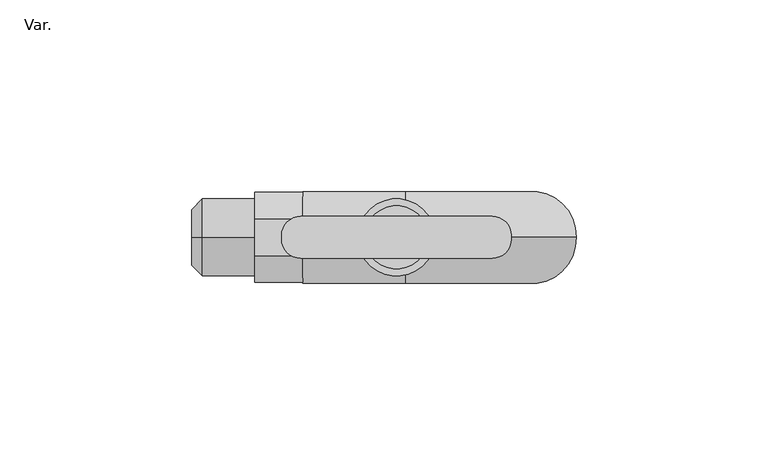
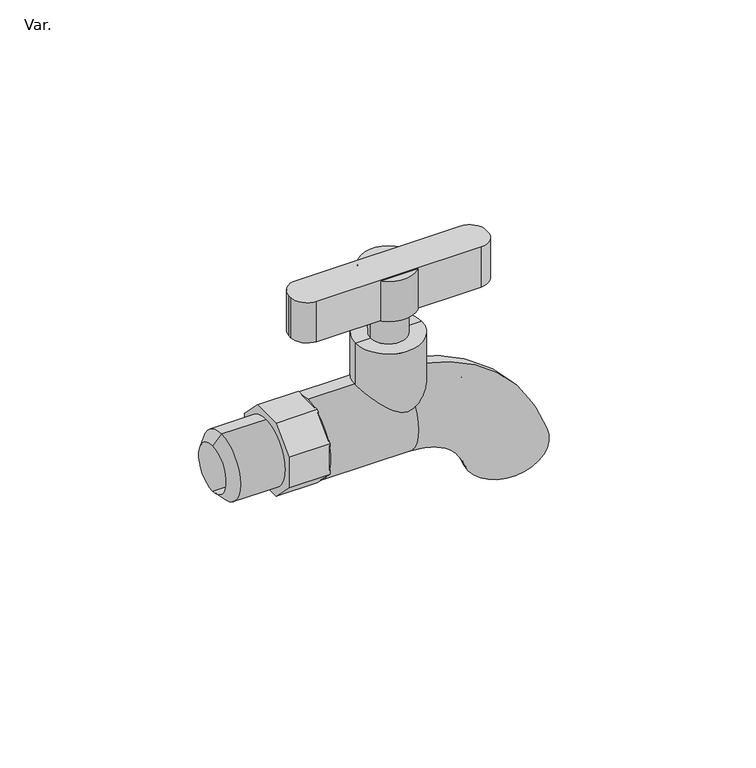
"""IFC4 building model written with IfcOpenShell, lengths in millimetres: pipe fitting geometry, AmancoWavin_Unionesdetubería_AguaPotableLlavedeChorroBRPesada : Var.."""

from ifc_helpers import new_model, si_unit, point, frame, frame_2d, origin, place, context, project, spatial, polyline, circle_curve, ellipse_curve, trimmed, segment, composite_curve, outline, extrude, source, transform, mapped, element, save
from ifc_brep_helpers import plane_surface, cylinder_surface, revolved_surface, advanced_brep


def var_e75e8eaf(model_context):
    return source(origin(), model_context, "Body", "SolidModel", [
        extrude(outline(composite_curve([segment(trimmed(circle_curve(frame_2d((28.4873048, -0.485)), 5.0), [point((28.4873048, -5.485))], [point((23.4873048, -0.485))], False, "CARTESIAN"), True, "CONTINUOUS"), segment(polyline([(23.4873048, -0.485), (23.4873048, 0.485)]), True, "CONTINUOUS"), segment(trimmed(circle_curve(frame_2d((28.4873048, 0.485)), 5.0), [point((23.4873048, 0.485))], [point((28.4873048, 5.485))], False, "CARTESIAN"), True, "CONTINUOUS"), segment(polyline([(28.4873048, 5.485), (78.4373048, 5.485)]), True, "CONTINUOUS"), segment(trimmed(circle_curve(frame_2d((78.4373048, 0.485)), 5.0), [point((78.4373048, 5.485))], [point((83.4373048, 0.485))], False, "CARTESIAN"), True, "CONTINUOUS"), segment(polyline([(83.4373048, 0.485), (83.4373048, -0.485)]), True, "CONTINUOUS"), segment(trimmed(circle_curve(frame_2d((78.4373048, -0.485)), 5.0), [point((83.4373048, -0.485))], [point((78.4373048, -5.485))], False, "CARTESIAN"), True, "CONTINUOUS"), segment(polyline([(78.4373048, -5.485), (28.4873048, -5.485)]), True, "CONTINUOUS")], self_intersect=False)), frame((0.0, 0.0, 34.09), z_axis=(0.0, 0.0, 1.0), x_axis=(1.0, 0.0, 0.0)), (0.0, 0.0, 1.0), 12.91),
        advanced_brep(
        [(63.5423048, 0.0, 25.0), (43.3823048, 0.0, 25.0), (43.3823048, 0.0, 0.0), (63.5423048, 0.0, 0.0), (58.9473048, 0.0, 25.0), (47.9773048, 0.0, 25.0), (58.9473048, 0.0, 34.09), (47.9773048, 0.0, 34.09), (61.6898048, 0.0, 34.09), (45.2348048, 0.0, 34.09), (61.6898048, 0.0, 47.0), (45.2348048, 0.0, 47.0), (53.4623048, 0.0, 47.0), (53.4623048, 0.0, 0.0)],
        [
            (0, 1, circle_curve(frame((53.4623048, 0.0, 25.0), z_axis=(0.0, 0.0, -1.0), x_axis=(-1.0, 0.0, 0.0)), 10.08)),
            (1, 2),
            (2, 3, circle_curve(frame((53.4623048, 0.0, 0.0), z_axis=(0.0, 0.0, 1.0), x_axis=(-1.0, 0.0, 0.0)), 10.08)),
            (3, 0),
            (1, 0, circle_curve(frame((53.4623048, 0.0, 25.0), z_axis=(0.0, 0.0, -1.0), x_axis=(-1.0, 0.0, 0.0)), 10.08)),
            (3, 2, circle_curve(frame((53.4623048, 0.0, 0.0), z_axis=(0.0, 0.0, 1.0), x_axis=(-1.0, 0.0, 0.0)), 10.08)),
            (4, 5, circle_curve(frame((53.4623048, 0.0, 25.0), z_axis=(0.0, 0.0, -1.0), x_axis=(-1.0, 0.0, 0.0)), 5.485)),
            (5, 1),
            (0, 4),
            (5, 4, circle_curve(frame((53.4623048, 0.0, 25.0), z_axis=(0.0, 0.0, -1.0), x_axis=(-1.0, 0.0, 0.0)), 5.485)),
            (6, 7, circle_curve(frame((53.4623048, 0.0, 34.09), z_axis=(0.0, 0.0, -1.0), x_axis=(-1.0, 0.0, 0.0)), 5.485)),
            (7, 5),
            (4, 6),
            (7, 6, circle_curve(frame((53.4623048, 0.0, 34.09), z_axis=(0.0, 0.0, -1.0), x_axis=(-1.0, 0.0, 0.0)), 5.485)),
            (8, 9, circle_curve(frame((53.4623048, 0.0, 34.09), z_axis=(0.0, 0.0, -1.0), x_axis=(-1.0, 0.0, 0.0)), 8.2275)),
            (9, 7),
            (6, 8),
            (9, 8, circle_curve(frame((53.4623048, 0.0, 34.09), z_axis=(0.0, 0.0, -1.0), x_axis=(-1.0, 0.0, 0.0)), 8.2275)),
            (10, 11, circle_curve(frame((53.4623048, 0.0, 47.0), z_axis=(0.0, 0.0, -1.0), x_axis=(-1.0, 0.0, 0.0)), 8.2275)),
            (11, 9),
            (8, 10),
            (11, 10, circle_curve(frame((53.4623048, 0.0, 47.0), z_axis=(0.0, 0.0, -1.0), x_axis=(-1.0, 0.0, 0.0)), 8.2275)),
            (12, 11),
            (10, 12),
            (2, 13),
            (13, 3),
        ],
        [
            cylinder_surface(frame((53.4623048, 0.0, 24.1815381), z_axis=(0.0, 0.0, 1.0), x_axis=(-1.0, 0.0, 0.0)), 10.08),
            plane_surface(frame((53.4623048, 0.0, 25.0), z_axis=(0.0, 0.0, 1.0), x_axis=(-1.0, 0.0, 0.0))),
            cylinder_surface(frame((53.4623048, 0.0, 24.1815381), z_axis=(0.0, 0.0, 1.0), x_axis=(-1.0, 0.0, 0.0)), 5.485),
            plane_surface(frame((53.4623048, 0.0, 34.09), z_axis=(0.0, 0.0, -1.0), x_axis=(-1.0, 0.0, 0.0))),
            cylinder_surface(frame((53.4623048, 0.0, 24.1815381), z_axis=(0.0, 0.0, 1.0), x_axis=(-1.0, 0.0, 0.0)), 8.2275),
            plane_surface(frame((53.4623048, 0.0, 47.0), z_axis=(0.0, 0.0, 1.0), x_axis=(-1.0, 0.0, 0.0))),
            plane_surface(frame((53.4623048, 0.0, 0.0), z_axis=(0.0, 0.0, -1.0), x_axis=(-1.0, 0.0, 0.0))),
        ],
        [
            (0, [[1, 2, 3, 4]]),
            (0, [[5, -4, 6, -2]]),
            (1, [[7, 8, -1, 9]]),
            (1, [[10, -9, -5, -8]]),
            (2, [[11, 12, -7, 13]]),
            (2, [[14, -13, -10, -12]]),
            (3, [[15, 16, -11, 17]]),
            (3, [[18, -17, -14, -16]]),
            (4, [[19, 20, -15, 21]]),
            (4, [[22, -21, -18, -20]]),
            (5, [[23, -19, 24]]),
            (5, [[-24, -22, -23]]),
            (6, [[-3, 25, 26]]),
            (6, [[-6, -26, -25]]),
        ],
    ),
        advanced_brep(
        [(28.95, 0.0, -12.0), (28.95, 0.0, 12.0), (28.95, 0.0, -7.075), (28.95, 0.0, 7.075), (55.702792, 0.0, -12.0), (55.702792, 0.0, 12.0), (55.702792, 0.0, -7.075), (55.702792, 0.0, 7.075), (77.5871001, 0.0, -27.9234854), (100.4228999, 0.0, -20.5392962), (82.2731965, 0.0, -26.4081882), (95.7368035, 0.0, -22.0545934)],
        [
            (0, 1, circle_curve(frame((28.95, 0.0, 0.0), z_axis=(-1.0, 0.0, 0.0), x_axis=(0.0, 0.0, 1.0)), 12.0)),
            (1, 0, circle_curve(frame((28.95, 0.0, 0.0), z_axis=(-1.0, 0.0, 0.0), x_axis=(0.0, 0.0, 1.0)), 12.0)),
            (2, 3, circle_curve(frame((28.95, 0.0, 0.0), z_axis=(1.0, 0.0, 0.0), x_axis=(0.0, 0.0, 1.0)), 7.075)),
            (3, 2, circle_curve(frame((28.95, 0.0, 0.0), z_axis=(1.0, 0.0, 0.0), x_axis=(0.0, 0.0, 1.0)), 7.075)),
            (0, 4),
            (4, 5, circle_curve(frame((55.702792, 0.0, 0.0), z_axis=(-1.0, 0.0, 0.0), x_axis=(0.0, 0.0, 1.0)), 12.0)),
            (5, 1),
            (5, 4, circle_curve(frame((55.702792, 0.0, 0.0), z_axis=(-1.0, 0.0, 0.0), x_axis=(0.0, 0.0, 1.0)), 12.0)),
            (2, 6),
            (6, 7, circle_curve(frame((55.702792, 0.0, 0.0), z_axis=(1.0, 0.0, 0.0), x_axis=(0.0, 0.0, 1.0)), 7.075)),
            (7, 3),
            (7, 6, circle_curve(frame((55.702792, 0.0, 0.0), z_axis=(1.0, 0.0, 0.0), x_axis=(0.0, 0.0, 1.0)), 7.075)),
            (8, 9, circle_curve(frame((89.005, 0.0, -24.2313908), z_axis=(0.3076745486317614, 0.0, -0.9514916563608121), x_axis=(0.9514916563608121, 0.0, 0.3076745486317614)), 12.0)),
            (9, 8, circle_curve(frame((89.005, 0.0, -24.2313908), z_axis=(0.3076745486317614, 0.0, -0.9514916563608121), x_axis=(0.9514916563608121, 0.0, 0.3076745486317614)), 12.0)),
            (10, 11, circle_curve(frame((89.005, 0.0, -24.2313908), z_axis=(-0.3076745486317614, 0.0, 0.9514916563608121), x_axis=(0.9514916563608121, 0.0, 0.3076745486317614)), 7.075)),
            (11, 10, circle_curve(frame((89.005, 0.0, -24.2313908), z_axis=(-0.3076745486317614, 0.0, 0.9514916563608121), x_axis=(0.9514916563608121, 0.0, 0.3076745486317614)), 7.075)),
            (9, 5, circle_curve(frame((55.702792, 0.0, -35.0), z_axis=(0.0, -1.0, 0.0), x_axis=(0.0, 0.0, 1.0)), 47.0)),
            (4, 8, circle_curve(frame((55.702792, 0.0, -35.0), z_axis=(0.0, 1.0, 0.0), x_axis=(0.0, 0.0, 1.0)), 23.0)),
            (11, 7, circle_curve(frame((55.702792, 0.0, -35.0), z_axis=(0.0, -1.0, 0.0), x_axis=(0.0, 0.0, 1.0)), 42.075)),
            (6, 10, circle_curve(frame((55.702792, 0.0, -35.0), z_axis=(0.0, 1.0, 0.0), x_axis=(0.0, 0.0, 1.0)), 27.925)),
        ],
        [
            plane_surface(frame((28.95, 0.0, 0.0), z_axis=(-1.0, 0.0, 0.0), x_axis=(0.0, -1.0, 0.0))),
            cylinder_surface(frame((28.95, 0.0, 0.0), z_axis=(-1.0, 0.0, 0.0), x_axis=(0.0, 0.0, 1.0)), 12.0),
            revolved_surface(polyline([(55.702792, 0.0, 7.075), (28.95, 0.0, 7.075)]), (28.95, 0.0, 0.0), (1.0, 0.0, 0.0)),
            plane_surface(frame((89.005, 0.0, -24.2313908), z_axis=(0.30767454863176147, 0.0, -0.9514916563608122), x_axis=(0.0, -1.0, 0.0))),
            revolved_surface(trimmed(ellipse_curve(frame((55.702792, 0.0, 0.0), z_axis=(-1.0, 0.0, 0.0), x_axis=(0.0, 0.0, 1.0)), 12.0, 12.0), [point((55.702792, 0.0, -12.0))], [point((55.702792, 0.0, 12.0))], True, "CARTESIAN"), (55.702792, 0.0, -35.0), (0.0, 1.0, 0.0)),
            revolved_surface(trimmed(ellipse_curve(frame((55.702792, 0.0, 0.0), z_axis=(-1.0, 0.0, 0.0), x_axis=(0.0, 0.0, 1.0)), 12.0, 12.0), [point((55.702792, 0.0, 12.0))], [point((55.702792, 0.0, -12.0))], True, "CARTESIAN"), (55.702792, 0.0, -35.0), (0.0, 1.0, 0.0)),
            revolved_surface(trimmed(ellipse_curve(frame((55.702792, 0.0, 0.0), z_axis=(1.0, 0.0, 0.0), x_axis=(0.0, 0.0, 1.0)), 7.075, 7.075), [point((55.702792, 0.0, -7.075))], [point((55.702792, 0.0, 7.075))], True, "CARTESIAN"), (55.702792, 0.0, -35.0), (0.0, 1.0, 0.0)),
            revolved_surface(trimmed(ellipse_curve(frame((55.702792, 0.0, 0.0), z_axis=(1.0, 0.0, 0.0), x_axis=(0.0, 0.0, 1.0)), 7.075, 7.075), [point((55.702792, 0.0, 7.075))], [point((55.702792, 0.0, -7.075))], True, "CARTESIAN"), (55.702792, 0.0, -35.0), (0.0, 1.0, 0.0)),
        ],
        [
            (0, [[1, 2], [3, 4]]),
            (1, [[-1, 5, 6, 7]]),
            (1, [[-2, -7, 8, -5]]),
            (2, [[-3, 9, 10, 11]]),
            (2, [[-4, -11, 12, -9]]),
            (3, [[13, 14], [15, 16]]),
            (4, [[17, -6, 18, -14]]),
            (5, [[-18, -8, -17, -13]]),
            (6, [[19, -10, 20, -16]]),
            (7, [[-20, -12, -19, -15]]),
        ],
    ),
        extrude(outline(polyline([(-11.735, 4.8607962), (-4.8607962, 11.735), (4.8607962, 11.735), (11.735, 4.8607962), (11.735, -4.8607962), (4.8607962, -11.735), (-4.8607962, -11.735), (-11.735, -4.8607962), (-11.735, 4.8607962)])), frame((16.46, 0.0, 0.0), z_axis=(1.0, 0.0, 0.0), x_axis=(0.0, 1.0, 0.0)), (0.0, 0.0, 1.0), 12.49),
        advanced_brep(
        [(2.8, 0.0, -10.08), (2.8, 0.0, 10.08), (16.46, 0.0, 10.08), (16.46, 0.0, -10.08), (0.0, 0.0, -7.28), (0.0, 0.0, 7.28), (16.46, 0.0, -7.28), (16.46, 0.0, 7.28)],
        [
            (0, 1, circle_curve(frame((2.8, 0.0, 0.0), z_axis=(1.0, 0.0, 0.0), x_axis=(0.0, 0.0, 1.0)), 10.08)),
            (1, 2),
            (2, 3, circle_curve(frame((16.46, 0.0, 0.0), z_axis=(-1.0, 0.0, 0.0), x_axis=(0.0, 0.0, 1.0)), 10.08)),
            (3, 0),
            (1, 0, circle_curve(frame((2.8, 0.0, 0.0), z_axis=(1.0, 0.0, 0.0), x_axis=(0.0, 0.0, 1.0)), 10.08)),
            (3, 2, circle_curve(frame((16.46, 0.0, 0.0), z_axis=(-1.0, 0.0, 0.0), x_axis=(0.0, 0.0, 1.0)), 10.08)),
            (4, 5, circle_curve(frame((0.0, 0.0, 0.0), z_axis=(1.0, 0.0, 0.0), x_axis=(0.0, 0.0, 1.0)), 7.28)),
            (5, 1),
            (0, 4),
            (5, 4, circle_curve(frame((0.0, 0.0, 0.0), z_axis=(1.0, 0.0, 0.0), x_axis=(0.0, 0.0, 1.0)), 7.28)),
            (6, 7, circle_curve(frame((16.46, 0.0, 0.0), z_axis=(1.0, 0.0, 0.0), x_axis=(0.0, 0.0, 1.0)), 7.28)),
            (7, 5),
            (4, 6),
            (7, 6, circle_curve(frame((16.46, 0.0, 0.0), z_axis=(1.0, 0.0, 0.0), x_axis=(0.0, 0.0, 1.0)), 7.28)),
            (2, 7),
            (6, 3),
        ],
        [
            cylinder_surface(frame((-1346.7719047, 0.0, 0.0), z_axis=(-1.0, 0.0, 0.0), x_axis=(0.0, 0.0, 1.0)), 10.08),
            revolved_surface(polyline([(2.8, 0.0, 10.08), (0.0, 0.0, 7.28)]), (-1346.7719047, 0.0, 0.0), (-1.0, 0.0, 0.0)),
            revolved_surface(polyline([(0.0, 0.0, 7.28), (16.460000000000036, 0.0, 7.28)]), (-1346.7719047, 0.0, 0.0), (-1.0, 0.0, 0.0)),
            plane_surface(frame((16.46, 0.0, 0.0), z_axis=(1.0, 0.0, 0.0), x_axis=(0.0, 0.0, 1.0))),
        ],
        [
            (0, [[1, 2, 3, 4]]),
            (0, [[5, -4, 6, -2]]),
            (1, [[7, 8, -1, 9]]),
            (1, [[10, -9, -5, -8]]),
            (2, [[11, 12, -7, 13]]),
            (2, [[14, -13, -10, -12]]),
            (3, [[-3, 15, -11, 16]]),
            (3, [[-6, -16, -14, -15]]),
        ],
    ),
    ])


if __name__ == "__main__":
    model = new_model("IFC4")
    model_context = context("Model", 3, world=origin())
    ifc_project = project(units=[si_unit("LENGTHUNIT", "METRE", prefix="MILLI")], contexts=[model_context])
    site = spatial("IfcSite", under=ifc_project)
    building = spatial("IfcBuilding", under=site)
    placement = place(None, origin())
    var_shape = var_e75e8eaf(model_context)
    element("IfcPipeFitting", 1, ObjectType="AmancoWavin_Unionesdetubería_AguaPotableLlavedeChorroBRPesada : Var.", at=placement, inside=building, context=model_context, shape_type="MappedRepresentation", body=[
        mapped(var_shape, transform((0.0, 0.0, 0.0), x_axis=(1.0, 0.0, 0.0), y_axis=(0.0, 1.0, 0.0), z_axis=(0.0, 0.0, 1.0))),
    ])
    save(model, "model.ifc")
